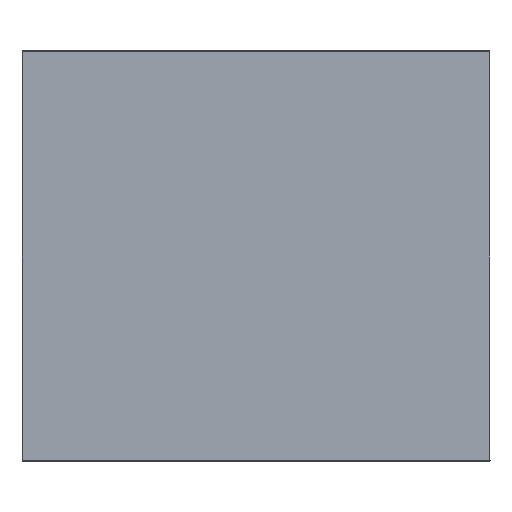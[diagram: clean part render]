
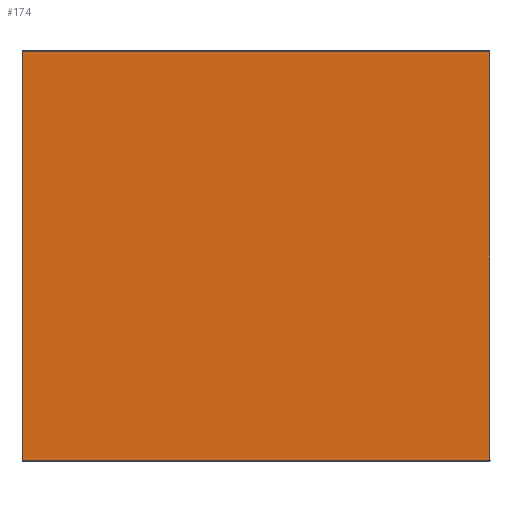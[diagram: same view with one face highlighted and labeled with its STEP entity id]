
A CAD part, top view. The second image highlights one B-rep face of the part: STEP entity #174.
In plain terms, the highlighted planar face has unit normal (0, 0, 1).
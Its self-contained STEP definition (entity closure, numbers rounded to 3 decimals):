
#106=AXIS2_PLACEMENT_3D('Plane Axis2P3D',#103,#104,#105) ;
#119=AXIS2_PLACEMENT_3D('Circle Axis2P3D',#117,#118,$) ;
#133=AXIS2_PLACEMENT_3D('Circle Axis2P3D',#131,#132,$) ;
#147=AXIS2_PLACEMENT_3D('Circle Axis2P3D',#145,#146,$) ;
#161=AXIS2_PLACEMENT_3D('Circle Axis2P3D',#159,#160,$) ;
#103=CARTESIAN_POINT('Axis2P3D Location',(0.,0.,4.)) ;
#108=CARTESIAN_POINT('Line Origine',(0.,-249.5,4.)) ;
#112=CARTESIAN_POINT('Vertex',(284.,-249.5,4.)) ;
#114=CARTESIAN_POINT('Vertex',(-284.,-249.5,4.)) ;
#117=CARTESIAN_POINT('Axis2P3D Location',(284.,-249.,4.)) ;
#121=CARTESIAN_POINT('Vertex',(284.5,-249.,4.)) ;
#124=CARTESIAN_POINT('Line Origine',(284.5,0.,4.)) ;
#128=CARTESIAN_POINT('Vertex',(284.5,249.,4.)) ;
#131=CARTESIAN_POINT('Axis2P3D Location',(284.,249.,4.)) ;
#135=CARTESIAN_POINT('Vertex',(284.,249.5,4.)) ;
#138=CARTESIAN_POINT('Line Origine',(0.,249.5,4.)) ;
#142=CARTESIAN_POINT('Vertex',(-284.,249.5,4.)) ;
#145=CARTESIAN_POINT('Axis2P3D Location',(-284.,249.,4.)) ;
#149=CARTESIAN_POINT('Vertex',(-284.5,249.,4.)) ;
#152=CARTESIAN_POINT('Line Origine',(-284.5,0.,4.)) ;
#156=CARTESIAN_POINT('Vertex',(-284.5,-249.,4.)) ;
#159=CARTESIAN_POINT('Axis2P3D Location',(-284.,-249.,4.)) ;
#104=DIRECTION('Axis2P3D Direction',(0.,0.,1.)) ;
#105=DIRECTION('Axis2P3D XDirection',(1.,0.,0.)) ;
#109=DIRECTION('Vector Direction',(-1.,0.,0.)) ;
#118=DIRECTION('Axis2P3D Direction',(0.,0.,1.)) ;
#125=DIRECTION('Vector Direction',(0.,1.,0.)) ;
#132=DIRECTION('Axis2P3D Direction',(0.,0.,1.)) ;
#139=DIRECTION('Vector Direction',(1.,0.,0.)) ;
#146=DIRECTION('Axis2P3D Direction',(0.,0.,1.)) ;
#153=DIRECTION('Vector Direction',(0.,-1.,0.)) ;
#160=DIRECTION('Axis2P3D Direction',(0.,0.,1.)) ;
#110=VECTOR('Line Direction',#109,1.) ;
#126=VECTOR('Line Direction',#125,1.) ;
#140=VECTOR('Line Direction',#139,1.) ;
#154=VECTOR('Line Direction',#153,1.) ;
#165=ORIENTED_EDGE('',*,*,#116,.F.) ;
#166=ORIENTED_EDGE('',*,*,#123,.T.) ;
#167=ORIENTED_EDGE('',*,*,#130,.T.) ;
#168=ORIENTED_EDGE('',*,*,#137,.T.) ;
#169=ORIENTED_EDGE('',*,*,#144,.F.) ;
#170=ORIENTED_EDGE('',*,*,#151,.T.) ;
#171=ORIENTED_EDGE('',*,*,#158,.T.) ;
#172=ORIENTED_EDGE('',*,*,#163,.T.) ;
#174=ADVANCED_FACE('Glas Kochfeld(fl\X2\00E4\X0\chenb\X2\00FC\X0\ndig)',(#173),#107,.T.) ;
#120=CIRCLE('generated circle',#119,0.5) ;
#134=CIRCLE('generated circle',#133,0.5) ;
#148=CIRCLE('generated circle',#147,0.5) ;
#162=CIRCLE('generated circle',#161,0.5) ;
#116=EDGE_CURVE('',#113,#115,#111,.T.) ;
#123=EDGE_CURVE('',#113,#122,#120,.T.) ;
#130=EDGE_CURVE('',#122,#129,#127,.T.) ;
#137=EDGE_CURVE('',#129,#136,#134,.T.) ;
#144=EDGE_CURVE('',#143,#136,#141,.T.) ;
#151=EDGE_CURVE('',#143,#150,#148,.T.) ;
#158=EDGE_CURVE('',#150,#157,#155,.T.) ;
#163=EDGE_CURVE('',#157,#115,#162,.T.) ;
#164=EDGE_LOOP('',(#165,#166,#167,#168,#169,#170,#171,#172)) ;
#173=FACE_OUTER_BOUND('',#164,.T.) ;
#111=LINE('Line',#108,#110) ;
#127=LINE('Line',#124,#126) ;
#141=LINE('Line',#138,#140) ;
#155=LINE('Line',#152,#154) ;
#107=PLANE('',#106) ;
#113=VERTEX_POINT('',#112) ;
#115=VERTEX_POINT('',#114) ;
#122=VERTEX_POINT('',#121) ;
#129=VERTEX_POINT('',#128) ;
#136=VERTEX_POINT('',#135) ;
#143=VERTEX_POINT('',#142) ;
#150=VERTEX_POINT('',#149) ;
#157=VERTEX_POINT('',#156) ;
